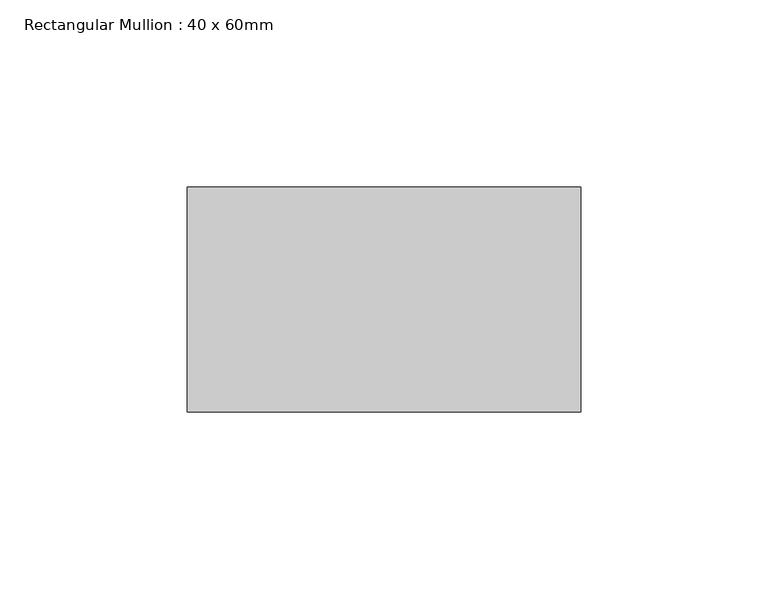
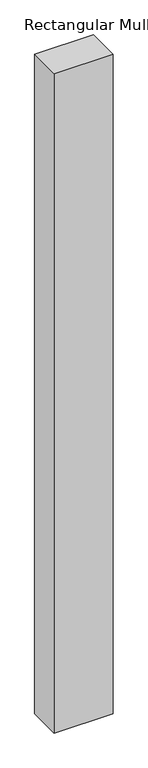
"""IFC4 building model written with IfcOpenShell, lengths in millimetres: member geometry, Rectangular Mullion : 40 x 60mm."""

from ifc_helpers import new_model, si_unit, frame, origin, place, context, project, spatial, polyline, outline, extrude, source, transform, mapped, element, save


def rectangular_mullion_40_x_60mm_5c2b723f(model_context):
    return source(origin(), model_context, "Body", "SweptSolid", [
        extrude(outline(polyline([(80.0, -10.0), (80.0, -70.0), (-25.0, -70.0), (-25.0, -10.0), (80.0, -10.0)])), frame((0.0, 0.0, -1244.8849927), z_axis=(0.0, 0.0, 1.0), x_axis=(1.0, 0.0, 0.0)), (0.0, 0.0, 1.0), 1244.8849927),
    ])


if __name__ == "__main__":
    model = new_model("IFC4")
    model_context = context("Model", 3, world=origin())
    ifc_project = project(units=[si_unit("LENGTHUNIT", "METRE", prefix="MILLI")], contexts=[model_context])
    site = spatial("IfcSite", under=ifc_project)
    building = spatial("IfcBuilding", under=site)
    placement = place(None, origin())
    rectangular_mullion_40_x_60mm_shape = rectangular_mullion_40_x_60mm_5c2b723f(model_context)
    element("IfcMember", 1, ObjectType="Rectangular Mullion : 40 x 60mm", at=placement, inside=building, context=model_context, shape_type="MappedRepresentation", body=[
        mapped(rectangular_mullion_40_x_60mm_shape, transform((0.0, 0.0, 0.0), x_axis=(1.0, 0.0, 0.0), y_axis=(0.0, 1.0, 0.0), z_axis=(0.0, 0.0, 1.0))),
    ])
    save(model, "model.ifc")
